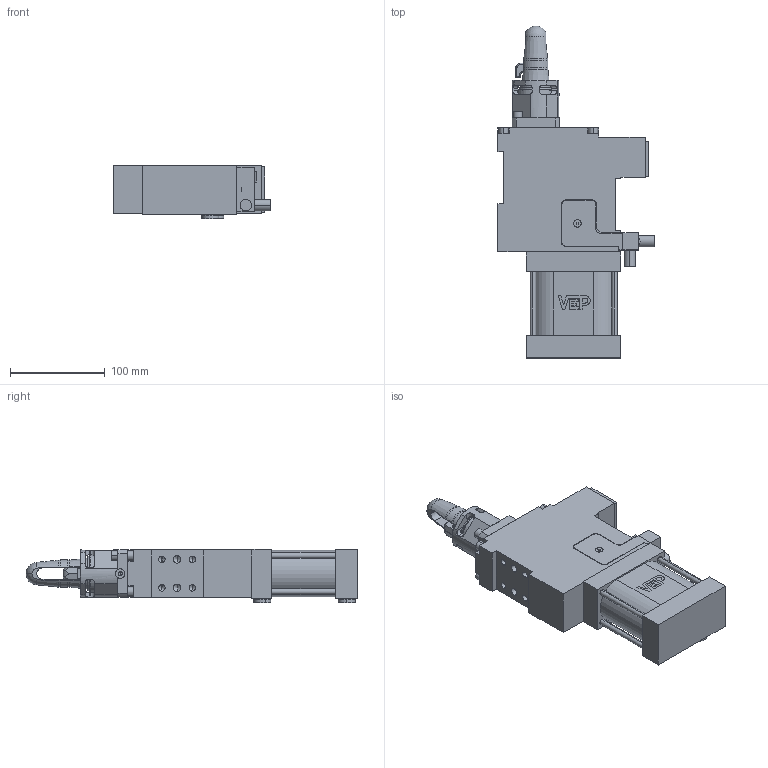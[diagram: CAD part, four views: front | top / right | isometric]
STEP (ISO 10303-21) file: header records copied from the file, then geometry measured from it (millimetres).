
FILE_DESCRIPTION (( 'STEP AP214' ), '1' );
FILE_NAME ('dca63cvi_10122nt3.STEP', '2021-11-30T08:16:54', ( '' ), ( '' ), 'SwSTEP 2.0', 'SolidWorks 2021', '' );
FILE_SCHEMA (( 'AUTOMOTIVE_DESIGN' ));
Length unit declared in the file: millimetre
Products named in the file (1): dca63cvi_10122nt3
Bounding box: 165 x 350.5 x 57 mm (x, y, z)
Volume: 1295420.4 mm3; surface area: 207387.4 mm2
Topology: 15 solids, 15 shells, 954 faces, 2521 edges, 1601 vertices
Faces by surface type: plane 485, cylinder 303, cone 80, torus 74, bspline 10, sphere 2
Entity records: 41557 total; most frequent: CARTESIAN_POINT 7369, ORIENTED_EDGE 4966, DIRECTION 4834, EDGE_CURVE 2483, AXIS2_PLACEMENT_3D 1702, VERTEX_POINT 1601, LINE 1430, VECTOR 1430
